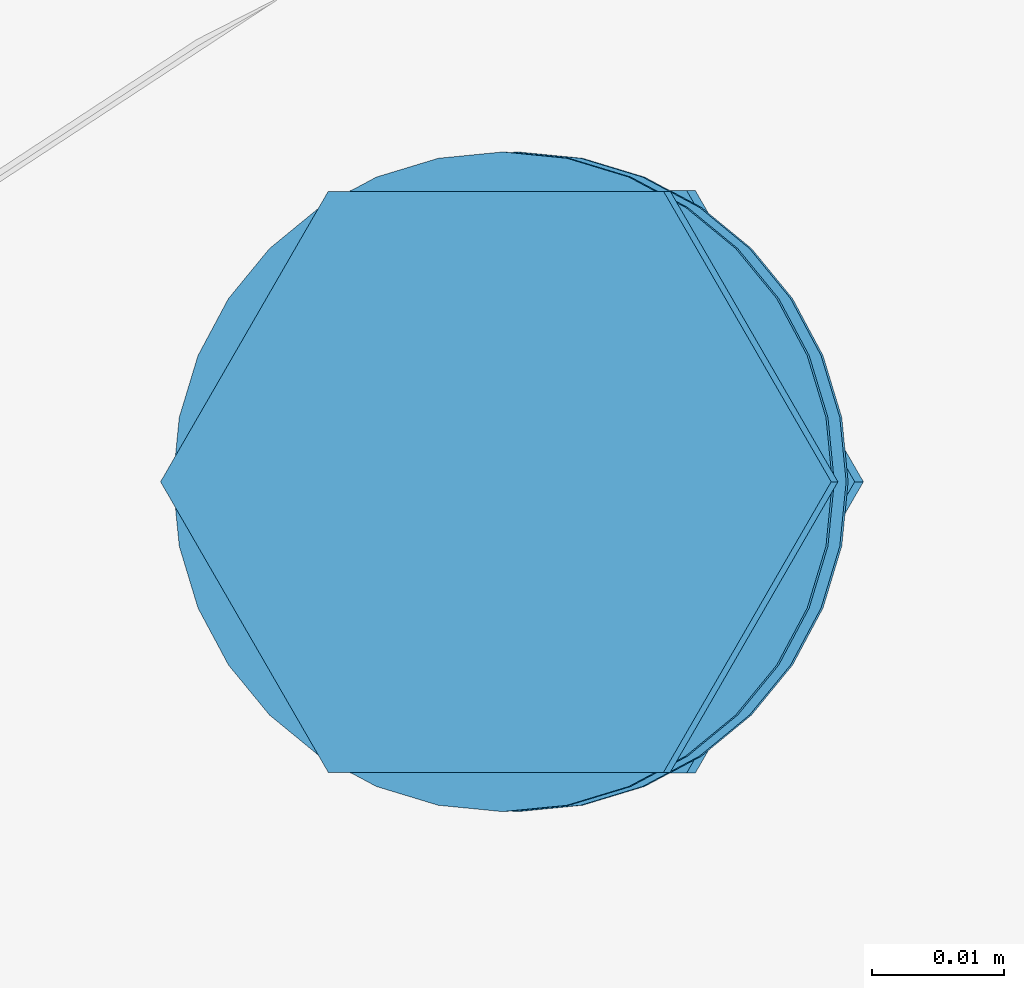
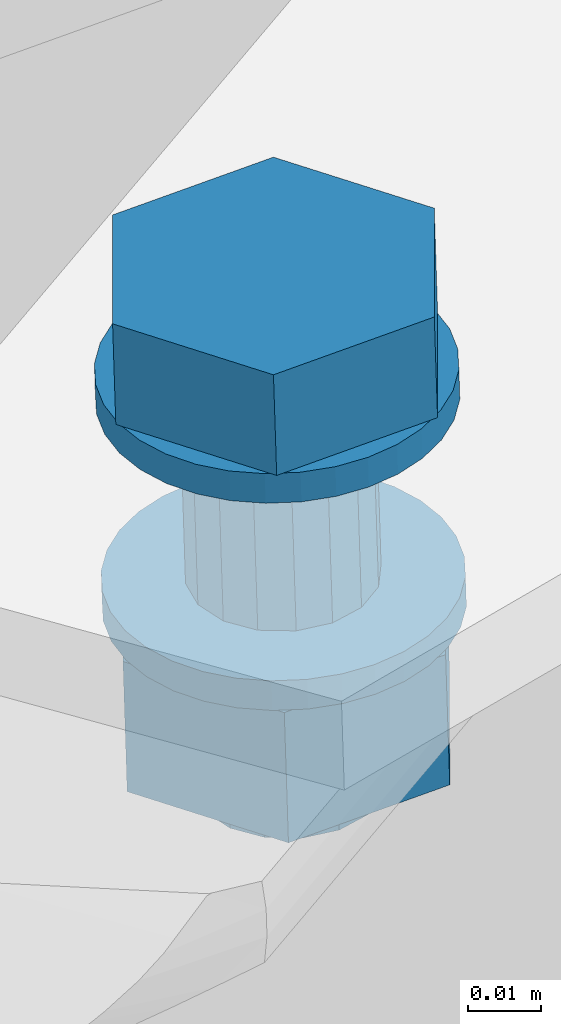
# One storey, part 139 of 476: 1 mechanical fastener.
"""IFC2X3 building model written with IfcOpenShell, lengths in millimetres."""

from ifc_helpers import new_model, entity, si_unit, converted_unit, origin_with_axes, place, context, project, spatial, faceted_brep, element, save


model = new_model("IFC2X3")

# Units and contexts
model_context = context("Model", 3, precision=1e-09, world=origin_with_axes())
ifc_project = project(units=[si_unit("LENGTHUNIT", "METRE", prefix="MILLI"), si_unit("AREAUNIT", "SQUARE_METRE"), si_unit("VOLUMEUNIT", "CUBIC_METRE"), converted_unit("PLANEANGLEUNIT", "DEGREE", entity("IfcPlaneAngleMeasure", 0.01745329), si_unit("PLANEANGLEUNIT", "RADIAN"), dimensions=[0, 0, 0, 0, 0, 0, 0])], contexts=[model_context])

# Site, building, storey
site_placement = place(None, origin_with_axes())
site = spatial("IfcSite", under=ifc_project, at=site_placement, Name="mKR Teilneubau & Sanierung BA1 - Ostfildern", CompositionType="ELEMENT")
building_placement = place(site_placement, origin_with_axes())
building = spatial("IfcBuilding", under=site, at=building_placement, Name="Struktur 1", CompositionType="ELEMENT")
storey_placement = place(building_placement, origin_with_axes())
storey = spatial("IfcBuildingStorey", under=building, at=storey_placement, Name="Default Storey", CompositionType="ELEMENT", Elevation=0.0)

# Mechanical fastener
mechanical_fastener_placement = place(None, origin_with_axes())
element("IfcMechanicalFastener", 1, at=mechanical_fastener_placement, inside=storey, ObjectType="-", NominalDiameter=27.0, NominalLength=70.0, context=model_context, shape_type="Brep", body=[
    faceted_brep([(21736.947157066, -21399.605344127, 5622.177830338), (21736.797206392, -21399.605344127, 5627.175581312), (21731.922142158, -21399.124976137, 5627.029311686), (21732.072092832, -21399.124976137, 5622.031560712), (21727.234423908, -21397.70233244, 5626.88866312), (21727.384374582, -21397.70233244, 5621.890912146), (21722.914198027, -21395.392084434, 5626.759040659), (21723.0641487, -21395.392084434, 5621.761289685), (21719.127488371, -21392.283013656, 5626.645425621), (21719.277439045, -21392.283013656, 5621.647674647), (21716.019816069, -21388.494599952, 5626.55218417), (21716.169766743, -21388.494599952, 5621.554433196), (21713.710607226, -21384.172429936, 5626.482899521), (21713.8605579, -21384.172429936, 5621.485148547), (21712.288603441, -21379.482602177, 5626.440234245), (21712.438554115, -21379.482602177, 5621.442483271), (21711.808451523, -21374.605344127, 5626.425827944), (21711.958402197, -21374.605344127, 5621.42807697), (21712.288603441, -21369.728086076, 5626.440234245), (21712.438554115, -21369.728086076, 5621.442483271), (21713.710607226, -21365.038258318, 5626.482899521), (21713.8605579, -21365.038258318, 5621.485148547), (21716.019816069, -21360.716088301, 5626.55218417), (21716.169766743, -21360.716088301, 5621.554433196), (21719.127488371, -21356.927674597, 5626.645425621), (21719.277439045, -21356.927674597, 5621.647674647), (21722.914198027, -21353.818603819, 5626.759040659), (21723.0641487, -21353.818603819, 5621.761289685), (21727.234423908, -21351.508355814, 5626.88866312), (21727.384374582, -21351.508355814, 5621.890912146), (21731.922142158, -21350.085712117, 5627.029311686), (21732.072092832, -21350.085712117, 5622.031560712), (21736.797206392, -21349.605344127, 5627.175581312), (21736.947157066, -21349.605344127, 5622.177830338), (21741.672270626, -21350.085712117, 5627.321850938), (21741.8222213, -21350.085712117, 5622.324099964), (21746.359988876, -21351.508355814, 5627.462499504), (21746.509939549, -21351.508355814, 5622.46474853), (21750.680214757, -21353.818603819, 5627.592121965), (21750.830165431, -21353.818603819, 5622.594370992), (21754.466924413, -21356.927674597, 5627.705737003), (21754.616875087, -21356.927674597, 5622.707986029), (21757.574596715, -21360.716088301, 5627.798978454), (21757.724547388, -21360.716088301, 5622.80122748), (21759.883805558, -21365.038258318, 5627.868263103), (21760.033756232, -21365.038258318, 5622.870512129), (21761.305809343, -21369.728086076, 5627.910928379), (21761.455760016, -21369.728086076, 5622.913177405), (21761.785961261, -21374.605344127, 5627.92533468), (21761.935911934, -21374.605344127, 5622.927583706), (21761.305809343, -21379.482602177, 5627.910928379), (21761.455760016, -21379.482602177, 5622.913177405), (21759.883805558, -21384.172429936, 5627.868263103), (21760.033756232, -21384.172429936, 5622.870512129), (21757.574596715, -21388.494599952, 5627.798978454), (21757.724547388, -21388.494599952, 5622.80122748), (21754.466924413, -21392.283013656, 5627.705737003), (21754.616875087, -21392.283013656, 5622.707986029), (21750.680214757, -21395.392084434, 5627.592121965), (21750.830165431, -21395.392084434, 5622.594370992), (21746.359988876, -21397.70233244, 5627.462499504), (21746.509939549, -21397.70233244, 5622.46474853), (21741.672270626, -21399.124976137, 5627.321850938), (21741.8222213, -21399.124976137, 5622.324099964)], [[[0, 1, 2, 3]], [[3, 2, 4, 5]], [[5, 4, 6, 7]], [[7, 6, 8, 9]], [[9, 8, 10, 11]], [[11, 10, 12, 13]], [[13, 12, 14, 15]], [[15, 14, 16, 17]], [[17, 16, 18, 19]], [[19, 18, 20, 21]], [[21, 20, 22, 23]], [[23, 22, 24, 25]], [[25, 24, 26, 27]], [[27, 26, 28, 29]], [[29, 28, 30, 31]], [[31, 30, 32, 33]], [[33, 32, 34, 35]], [[35, 34, 36, 37]], [[37, 36, 38, 39]], [[39, 38, 40, 41]], [[41, 40, 42, 43]], [[43, 42, 44, 45]], [[45, 44, 46, 47]], [[47, 46, 48, 49]], [[49, 48, 50, 51]], [[51, 50, 52, 53]], [[53, 52, 54, 55]], [[55, 54, 56, 57]], [[57, 56, 58, 59]], [[59, 58, 60, 61]], [[61, 60, 62, 63]], [[63, 62, 1, 0]], [[2, 1, 62, 60, 58, 56, 54, 52, 50, 48, 46, 44, 42, 40, 38, 36, 34, 32, 30, 28, 26, 24, 22, 20, 18, 16, 14, 12, 10, 8, 6, 4]], [[63, 0, 3, 5, 7, 9, 11, 13, 15, 17, 19, 21, 23, 25, 27, 29, 31, 33, 35, 37, 39, 41, 43, 45, 47, 49, 51, 53, 55, 57, 59, 61]]]),
    faceted_brep([(21723.580592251, -21352.586648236, 5643.786685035), (21724.090424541, -21352.586648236, 5626.794331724), (21711.383642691, -21374.605344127, 5626.413082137), (21710.8738104, -21374.605344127, 5643.405435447), (21724.090424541, -21396.624040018, 5626.794331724), (21723.580592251, -21396.624040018, 5643.786685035), (21749.503988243, -21396.624040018, 5627.5568309), (21748.994155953, -21396.624040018, 5644.54918421), (21762.210770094, -21374.605344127, 5627.938080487), (21761.700937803, -21374.605344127, 5644.930433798), (21749.503988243, -21352.586648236, 5627.5568309), (21748.994155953, -21352.586648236, 5644.54918421)], [[[0, 1, 2, 3]], [[3, 2, 4, 5]], [[5, 4, 6, 7]], [[7, 6, 8, 9]], [[9, 8, 10, 11]], [[11, 10, 1, 0]], [[3, 5, 7, 9, 11, 0]], [[2, 1, 10, 8, 6, 4]]]),
    faceted_brep([(21737.846861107, -21388.105344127, 5592.191324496), (21736.947166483, -21388.105344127, 5622.177516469), (21731.783263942, -21387.077717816, 5622.022580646), (21732.682958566, -21387.077717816, 5592.036388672), (21727.405518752, -21384.151285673, 5621.891232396), (21728.305213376, -21384.151285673, 5591.905040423), (21724.480402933, -21379.771570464, 5621.803468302), (21725.380097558, -21379.771570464, 5591.817276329), (21723.453238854, -21374.605344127, 5621.772649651), (21724.352933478, -21374.605344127, 5591.786457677), (21724.480402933, -21369.43911779, 5621.803468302), (21725.380097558, -21369.43911779, 5591.817276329), (21727.405518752, -21365.059402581, 5621.891232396), (21728.305213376, -21365.059402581, 5591.905040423), (21731.783263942, -21362.132970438, 5622.022580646), (21732.682958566, -21362.132970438, 5592.036388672), (21736.947166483, -21361.105344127, 5622.177516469), (21737.846861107, -21361.105344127, 5592.191324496), (21742.111069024, -21362.132970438, 5622.332452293), (21743.010763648, -21362.132970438, 5592.34626032), (21746.488814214, -21365.059402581, 5622.463800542), (21747.388508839, -21365.059402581, 5592.477608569), (21749.413930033, -21369.43911779, 5622.551564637), (21750.313624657, -21369.43911779, 5592.565372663), (21750.441094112, -21374.605344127, 5622.582383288), (21751.340788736, -21374.605344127, 5592.596191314), (21749.413930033, -21379.771570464, 5622.551564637), (21750.313624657, -21379.771570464, 5592.565372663), (21746.488814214, -21384.151285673, 5622.463800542), (21747.388508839, -21384.151285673, 5592.477608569), (21742.111069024, -21387.077717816, 5622.332452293), (21743.010763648, -21387.077717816, 5592.34626032)], [[[0, 1, 2, 3]], [[3, 2, 4, 5]], [[5, 4, 6, 7]], [[7, 6, 8, 9]], [[9, 8, 10, 11]], [[11, 10, 12, 13]], [[13, 12, 14, 15]], [[15, 14, 16, 17]], [[17, 16, 18, 19]], [[19, 18, 20, 21]], [[21, 20, 22, 23]], [[23, 22, 24, 25]], [[25, 24, 26, 27]], [[27, 26, 28, 29]], [[29, 28, 30, 31]], [[31, 30, 1, 0]], [[2, 1, 30, 28, 26, 24, 22, 20, 18, 16, 14, 12, 10, 8, 6, 4]], [[31, 0, 3, 5, 7, 9, 11, 13, 15, 17, 19, 21, 23, 25, 27, 29]]]),
    faceted_brep([(21737.996811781, -21399.605344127, 5587.193573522), (21737.846861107, -21399.605344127, 5592.191324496), (21732.971796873, -21399.124976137, 5592.04505487), (21733.121747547, -21399.124976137, 5587.047303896), (21728.284078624, -21397.70233244, 5591.904406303), (21728.434029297, -21397.70233244, 5586.90665533), (21723.963852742, -21395.392084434, 5591.774783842), (21724.113803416, -21395.392084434, 5586.777032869), (21720.177143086, -21392.283013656, 5591.661168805), (21720.32709376, -21392.283013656, 5586.663417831), (21717.069470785, -21388.494599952, 5591.567927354), (21717.219421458, -21388.494599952, 5586.57017638), (21714.760261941, -21384.172429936, 5591.498642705), (21714.910212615, -21384.172429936, 5586.500891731), (21713.338258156, -21379.482602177, 5591.455977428), (21713.48820883, -21379.482602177, 5586.458226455), (21712.858106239, -21374.605344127, 5591.441571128), (21713.008056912, -21374.605344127, 5586.443820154), (21713.338258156, -21369.728086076, 5591.455977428), (21713.48820883, -21369.728086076, 5586.458226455), (21714.760261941, -21365.038258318, 5591.498642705), (21714.910212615, -21365.038258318, 5586.500891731), (21717.069470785, -21360.716088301, 5591.567927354), (21717.219421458, -21360.716088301, 5586.57017638), (21720.177143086, -21356.927674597, 5591.661168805), (21720.32709376, -21356.927674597, 5586.663417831), (21723.963852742, -21353.818603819, 5591.774783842), (21724.113803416, -21353.818603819, 5586.777032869), (21728.284078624, -21351.508355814, 5591.904406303), (21728.434029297, -21351.508355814, 5586.90665533), (21732.971796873, -21350.085712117, 5592.04505487), (21733.121747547, -21350.085712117, 5587.047303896), (21737.846861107, -21349.605344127, 5592.191324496), (21737.996811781, -21349.605344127, 5587.193573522), (21742.721925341, -21350.085712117, 5592.337594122), (21742.871876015, -21350.085712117, 5587.339843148), (21747.409643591, -21351.508355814, 5592.478242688), (21747.559594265, -21351.508355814, 5587.480491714), (21751.729869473, -21353.818603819, 5592.607865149), (21751.879820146, -21353.818603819, 5587.610114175), (21755.516579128, -21356.927674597, 5592.721480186), (21755.666529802, -21356.927674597, 5587.723729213), (21758.62425143, -21360.716088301, 5592.814721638), (21758.774202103, -21360.716088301, 5587.816970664), (21760.933460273, -21365.038258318, 5592.884006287), (21761.083410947, -21365.038258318, 5587.886255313), (21762.355464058, -21369.728086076, 5592.926671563), (21762.505414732, -21369.728086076, 5587.928920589), (21762.835615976, -21374.605344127, 5592.941077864), (21762.98556665, -21374.605344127, 5587.94332689), (21762.355464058, -21379.482602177, 5592.926671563), (21762.505414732, -21379.482602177, 5587.928920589), (21760.933460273, -21384.172429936, 5592.884006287), (21761.083410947, -21384.172429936, 5587.886255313), (21758.62425143, -21388.494599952, 5592.814721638), (21758.774202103, -21388.494599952, 5587.816970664), (21755.516579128, -21392.283013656, 5592.721480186), (21755.666529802, -21392.283013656, 5587.723729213), (21751.729869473, -21395.392084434, 5592.607865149), (21751.879820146, -21395.392084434, 5587.610114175), (21747.409643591, -21397.70233244, 5592.478242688), (21747.559594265, -21397.70233244, 5587.480491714), (21742.721925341, -21399.124976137, 5592.337594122), (21742.871876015, -21399.124976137, 5587.339843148)], [[[0, 1, 2, 3]], [[3, 2, 4, 5]], [[5, 4, 6, 7]], [[7, 6, 8, 9]], [[9, 8, 10, 11]], [[11, 10, 12, 13]], [[13, 12, 14, 15]], [[15, 14, 16, 17]], [[17, 16, 18, 19]], [[19, 18, 20, 21]], [[21, 20, 22, 23]], [[23, 22, 24, 25]], [[25, 24, 26, 27]], [[27, 26, 28, 29]], [[29, 28, 30, 31]], [[31, 30, 32, 33]], [[33, 32, 34, 35]], [[35, 34, 36, 37]], [[37, 36, 38, 39]], [[39, 38, 40, 41]], [[41, 40, 42, 43]], [[43, 42, 44, 45]], [[45, 44, 46, 47]], [[47, 46, 48, 49]], [[49, 48, 50, 51]], [[51, 50, 52, 53]], [[53, 52, 54, 55]], [[55, 54, 56, 57]], [[57, 56, 58, 59]], [[59, 58, 60, 61]], [[61, 60, 62, 63]], [[63, 62, 1, 0]], [[2, 1, 62, 60, 58, 56, 54, 52, 50, 48, 46, 44, 42, 40, 38, 36, 34, 32, 30, 28, 26, 24, 22, 20, 18, 16, 14, 12, 10, 8, 6, 4]], [[63, 0, 3, 5, 7, 9, 11, 13, 15, 17, 19, 21, 23, 25, 27, 29, 31, 33, 35, 37, 39, 41, 43, 45, 47, 49, 51, 53, 55, 57, 59, 61]]]),
    faceted_brep([(21725.252546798, -21352.52169633, 5586.811199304), (21725.912329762, -21352.52169633, 5564.82109502), (21713.168064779, -21374.605344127, 5564.438720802), (21712.508281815, -21374.605344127, 5586.428825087), (21725.912329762, -21396.688991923, 5564.82109502), (21725.252546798, -21396.688991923, 5586.811199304), (21751.400859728, -21396.688991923, 5565.585843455), (21750.741076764, -21396.688991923, 5587.57594774), (21764.145124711, -21374.605344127, 5565.968217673), (21763.485341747, -21374.605344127, 5587.958321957), (21751.400859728, -21352.52169633, 5565.585843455), (21750.741076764, -21352.52169633, 5587.57594774)], [[[0, 1, 2, 3]], [[3, 2, 4, 5]], [[5, 4, 6, 7]], [[7, 6, 8, 9]], [[9, 8, 10, 11]], [[11, 10, 1, 0]], [[3, 5, 7, 9, 11, 0]], [[2, 1, 10, 8, 6, 4]]]),
    faceted_brep([(21738.896515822, -21388.105344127, 5557.20706768), (21738.656585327, -21388.105344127, 5565.203783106), (21733.492682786, -21387.077717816, 5565.048847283), (21733.732613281, -21387.077717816, 5557.052131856), (21729.114937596, -21384.151285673, 5564.917499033), (21729.354868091, -21384.151285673, 5556.920783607), (21726.189821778, -21379.771570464, 5564.829734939), (21726.429752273, -21379.771570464, 5556.833019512), (21725.162657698, -21374.605344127, 5564.798916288), (21725.402588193, -21374.605344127, 5556.802200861), (21726.189821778, -21369.43911779, 5564.829734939), (21726.429752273, -21369.43911779, 5556.833019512), (21729.114937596, -21365.059402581, 5564.917499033), (21729.354868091, -21365.059402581, 5556.920783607), (21733.492682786, -21362.132970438, 5565.048847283), (21733.732613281, -21362.132970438, 5557.052131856), (21738.656585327, -21361.105344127, 5565.203783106), (21738.896515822, -21361.105344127, 5557.20706768), (21743.820487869, -21362.132970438, 5565.35871893), (21744.060418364, -21362.132970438, 5557.362003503), (21748.198233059, -21365.059402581, 5565.490067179), (21748.438163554, -21365.059402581, 5557.493351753), (21751.123348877, -21369.43911779, 5565.577831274), (21751.363279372, -21369.43911779, 5557.581115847), (21752.150512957, -21374.605344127, 5565.608649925), (21752.390443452, -21374.605344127, 5557.611934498), (21751.123348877, -21379.771570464, 5565.577831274), (21751.363279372, -21379.771570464, 5557.581115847), (21748.198233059, -21384.151285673, 5565.490067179), (21748.438163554, -21384.151285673, 5557.493351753), (21743.820487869, -21387.077717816, 5565.35871893), (21744.060418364, -21387.077717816, 5557.362003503)], [[[0, 1, 2, 3]], [[3, 2, 4, 5]], [[5, 4, 6, 7]], [[7, 6, 8, 9]], [[9, 8, 10, 11]], [[11, 10, 12, 13]], [[13, 12, 14, 15]], [[15, 14, 16, 17]], [[17, 16, 18, 19]], [[19, 18, 20, 21]], [[21, 20, 22, 23]], [[23, 22, 24, 25]], [[25, 24, 26, 27]], [[27, 26, 28, 29]], [[29, 28, 30, 31]], [[31, 30, 1, 0]], [[2, 1, 30, 28, 26, 24, 22, 20, 18, 16, 14, 12, 10, 8, 6, 4]], [[31, 0, 3, 5, 7, 9, 11, 13, 15, 17, 19, 21, 23, 25, 27, 29]]]),
])

save(model, "model.ifc")
